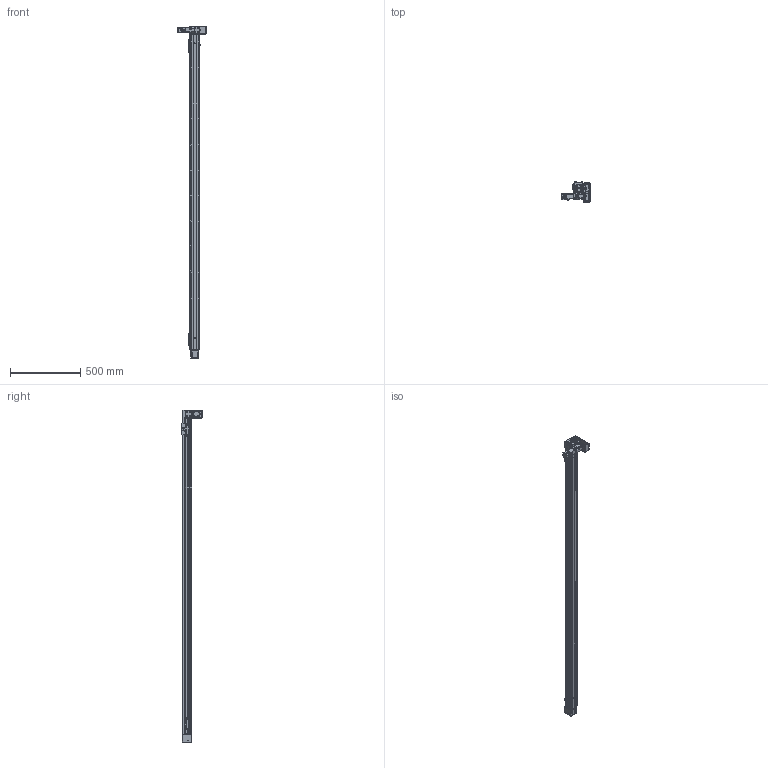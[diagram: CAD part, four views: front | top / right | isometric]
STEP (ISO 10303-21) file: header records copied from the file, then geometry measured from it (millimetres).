
FILE_DESCRIPTION(/* description */ (''),/* implementation_level */ '2;1');
FILE_NAME(/* name */ '\\192.168.0.160\disk1\HAN SHIN Master\B-설계부문\C-표준\B-2024년\BC02-표준도면\+로봇 개선표준도면\홈페이지 표준 도면\홈페이지 최종 작업 폴더\3D\HSB\HSB55\HSB55-DR1G-N-2100-L.stp',/* time_stamp */ '2025-06-19T20:22:26+09:00',/* author */ ('user'),/* organization */ (''),/* preprocessor_version */ 'ST-DEVELOPER v18.1',/* originating_system */ 'Autodesk Inventor 2022',/* authorisation */ '');
FILE_SCHEMA (('AUTOMOTIVE_DESIGN { 1 0 10303 214 3 1 1 }'));
Products named in the file (42): HSB55-DR1G-N-0500-L; HSB55 BASE; HSB55 TABLE; UPCOVER; HSB55 HOUSING (Connecting); HSB55 FRONT HOUSIONG; HSB55 REAR SHAFT-1; HSB55 REAR SHAFT; HSB55 DOWN CLAMP; M4-25(렌치볼트); HSB55 HOUSING-R1; HSB55 TENSION PLATE; ISO 4032 - M4; HSB55 UP CLAMP; M4-12(렌치볼트); SIDE COVER_대칭도; SIDE COVER; HR45 STOPPER; HSB55 ACRYL COVER-R1; HSB55 ACRYL COVER; HSB160 BEARING OVER; HSB55 END COVER; HSB160 SHAFT-1; EC-6202ZZ; EC-6202ZZ Inner ring; EC-6202ZZ Outer ring; EC-6202ZZ St; EC-6202ZZ Ball; EC-6202ZZ B1; HR45 SENSOR DOG; hsr_ftht_A-M6F_grease_nipple_joint; NIPPLE CAP(신규); HR45 SENSOR RAIL; EE_SX674A; PGX44-H-1_3; hg-kr13_; MOTOR PLATE-100W(MITSUBISHI); HSB55 D BELT COVER; HR65-BELT COVER-COVER; HR65-BELT COVER-COVER3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
Assembly tree (64 placements, depth 3):
  HSB55-DR1G-N-0500-L
    HSB55 BASE
    HSB55 TABLE
    UPCOVER
    HSB55 FRONT HOUSIONG  x2
    HSB55 HOUSING (Connecting)
    HSB55 REAR SHAFT-1
    #134931  x2
    HSB55 REAR SHAFT
    HSB55 DOWN CLAMP  x2
    HSB55 UP CLAMP  x2
    M4-25(렌치볼트)
    ISO 4032 - M4  x2
    HSB55 HOUSING-R1
    HSB55 TENSION PLATE  x2
    M4-12(렌치볼트)
    SIDE COVER_대칭도
    SIDE COVER
    HR45 STOPPER  x2
    HSB55 ACRYL COVER  x4
    HSB55 ACRYL COVER-R1
    HSB160 BEARING OVER
    HSB55 END COVER
    HSB160 SHAFT-1
    EC-6202ZZ  x2
      EC-6202ZZ Inner ring
      EC-6202ZZ Outer ring
      EC-6202ZZ B1
      EC-6202ZZ St
      EC-6202ZZ Ball
    HR45 SENSOR DOG
    EE_SX674A  x3
    HR45 SENSOR RAIL  x2
    hsr_ftht_A-M6F_grease_nipple_joint
    NIPPLE CAP(신규)
    PGX44-H-1_3
    hg-kr13_
    MOTOR PLATE-100W(MITSUBISHI)
    HSB55 D BELT COVER
    HR65-BELT COVER-COVER
    HR65-BELT COVER-COVER3
    HSB55 D MOTOR PLATE
    HR65-BELT COVER-COVER2
Bounding box: 201.4 x 142.7 x 2367 mm (x, y, z)
Volume: 3788093.8 mm3; surface area: 1722745 mm2
Topology: 90 solids, 90 shells, 5300 faces, 14576 edges, 9534 vertices
Faces by surface type: plane 3669, cylinder 1264, cone 288, torus 35, sphere 22, bspline 22
Full cylindrical faces by diameter (mm): 1 x2, 2 x3, 2.013 x4, 2.459 x102, 2.5 x5, 3 x3, 3.242 x80, 3.3 x9, 3.4 x16, 3.5 x75, 4 x12, 4.134 x24, 4.2 x4, 4.5 x45, 4.917 x2, 5 x8, 5.5 x1, 5.6 x3, 5.9 x2, 6 x46, 6.5 x4, 7 x6, 7.5 x4, 8 x20, 8.2 x1, 9 x2, 9.5 x2, 10 x1, 11.5 x2, 12 x6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
Entity records: 134889 total; most frequent: CARTESIAN_POINT 27332, ORIENTED_EDGE 22100, DIRECTION 21729, EDGE_CURVE 11050, LINE 7741, VECTOR 7741, VERTEX_POINT 7268, AXIS2_PLACEMENT_3D 6994
